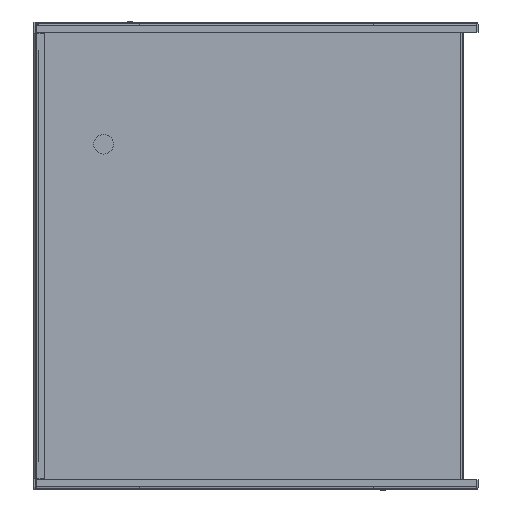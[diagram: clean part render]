
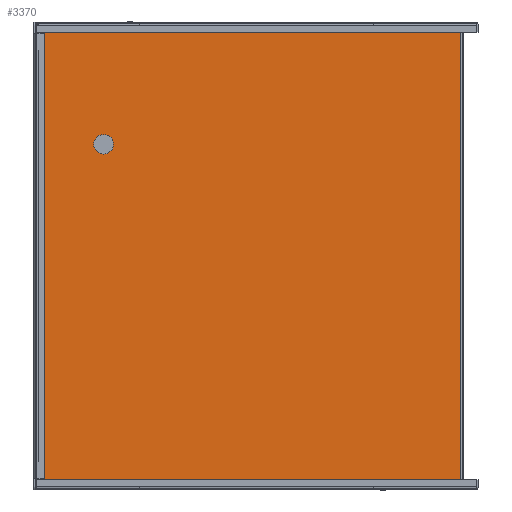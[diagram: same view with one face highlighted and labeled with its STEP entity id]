
A CAD part, left-side view. The second image highlights one B-rep face of the part: STEP entity #3370.
In plain terms, the highlighted planar face has unit normal (-1, 0, 0).
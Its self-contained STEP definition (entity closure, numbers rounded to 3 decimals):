
#929 = CARTESIAN_POINT ( 'NONE',  ( -250., 1.3, 175.2 ) ) ;
#933 = DIRECTION ( 'NONE',  ( 0., 1., 0. ) ) ;
#964 = CARTESIAN_POINT ( 'NONE',  ( -250., 323.7, 157. ) ) ;
#977 = DIRECTION ( 'NONE',  ( 0., 0., -1. ) ) ;
#1296 = VECTOR ( 'NONE', #933, 1000. ) ;
#1298 = LINE ( 'NONE', #929, #1296 ) ;
#1440 = VECTOR ( 'NONE', #7320, 1000. ) ;
#1444 = LINE ( 'NONE', #7218, #1440 ) ;
#1603 = ORIENTED_EDGE ( 'NONE', *, *, #8652, .F. ) ;
#1604 = ORIENTED_EDGE ( 'NONE', *, *, #8679, .T. ) ;
#1607 = ORIENTED_EDGE ( 'NONE', *, *, #8677, .F. ) ;
#1611 = ORIENTED_EDGE ( 'NONE', *, *, #8686, .T. ) ;
#1612 = ORIENTED_EDGE ( 'NONE', *, *, #9012, .T. ) ;
#1739 = ORIENTED_EDGE ( 'NONE', *, *, #8466, .T. ) ;
#1740 = ORIENTED_EDGE ( 'NONE', *, *, #8293, .F. ) ;
#1766 = ORIENTED_EDGE ( 'NONE', *, *, #8429, .T. ) ;
#1799 = ORIENTED_EDGE ( 'NONE', *, *, #8975, .F. ) ;
#1800 = ORIENTED_EDGE ( 'NONE', *, *, #9011, .T. ) ;
#3370 = ADVANCED_FACE ( 'NONE', ( #5920, #5916 ), #6550, .T. ) ;
#4261 = EDGE_LOOP ( 'NONE', ( #1603, #1607 ) ) ;
#4269 = EDGE_LOOP ( 'NONE', ( #1799, #1612, #1800, #1766, #1740, #1611, #1739, #1604 ) ) ;
#4678 = CARTESIAN_POINT ( 'NONE',  ( -250., 325., -175.2 ) ) ;
#4792 = CARTESIAN_POINT ( 'NONE',  ( -250., 323.7, -157. ) ) ;
#5341 = VERTEX_POINT ( 'NONE', #6185 ) ;
#5389 = CARTESIAN_POINT ( 'NONE',  ( -250., 1.3, 175.2 ) ) ;
#5412 = CARTESIAN_POINT ( 'NONE',  ( -250., 325., -157. ) ) ;
#5573 = CARTESIAN_POINT ( 'NONE',  ( -250., 281.2, 85.2 ) ) ;
#5670 = VECTOR ( 'NONE', #13682, 1000. ) ;
#5673 = LINE ( 'NONE', #13772, #5670 ) ;
#5681 = VECTOR ( 'NONE', #13648, 1000. ) ;
#5684 = LINE ( 'NONE', #13649, #5681 ) ;
#5686 = CIRCLE ( 'NONE', #14674, 7.5 ) ;
#5705 = CIRCLE ( 'NONE', #14706, 7.5 ) ;
#5916 = FACE_OUTER_BOUND ( 'NONE', #4269, .T. ) ;
#5920 = FACE_BOUND ( 'NONE', #4261, .T. ) ;
#6050 = DIRECTION ( 'NONE',  ( -1., 0., 0. ) ) ;
#6185 = CARTESIAN_POINT ( 'NONE',  ( -250., 325., 175.2 ) ) ;
#6542 = CARTESIAN_POINT ( 'NONE',  ( -250., 0., 0. ) ) ;
#6550 = PLANE ( 'NONE',  #14061 ) ;
#6580 = DIRECTION ( 'NONE',  ( 0., -1., 0. ) ) ;
#7218 = CARTESIAN_POINT ( 'NONE',  ( -250., 325., 177.5 ) ) ;
#7320 = DIRECTION ( 'NONE',  ( 0., 0., 1. ) ) ;
#8177 = VECTOR ( 'NONE', #977, 1000. ) ;
#8182 = LINE ( 'NONE', #964, #8177 ) ;
#8293 = EDGE_CURVE ( 'NONE', #12748, #5341, #1444, .T. ) ;
#8429 = EDGE_CURVE ( 'NONE', #13378, #5341, #1298, .T. ) ;
#8466 = EDGE_CURVE ( 'NONE', #12928, #13491, #8182, .T. ) ;
#8652 = EDGE_CURVE ( 'NONE', #12763, #13159, #5705, .T. ) ;
#8677 = EDGE_CURVE ( 'NONE', #13159, #12763, #5686, .T. ) ;
#8679 = EDGE_CURVE ( 'NONE', #13491, #13421, #5684, .T. ) ;
#8686 = EDGE_CURVE ( 'NONE', #12748, #12928, #5673, .T. ) ;
#8975 = EDGE_CURVE ( 'NONE', #13202, #13421, #11252, .T. ) ;
#9011 = EDGE_CURVE ( 'NONE', #12905, #13378, #11206, .T. ) ;
#9012 = EDGE_CURVE ( 'NONE', #13202, #12905, #11204, .T. ) ;
#10558 = CARTESIAN_POINT ( 'NONE',  ( -250., 323.7, 157. ) ) ;
#10594 = CARTESIAN_POINT ( 'NONE',  ( -250., 1.3, -175.2 ) ) ;
#10809 = CARTESIAN_POINT ( 'NONE',  ( -250., 266.2, 85.2 ) ) ;
#10858 = CARTESIAN_POINT ( 'NONE',  ( -250., 325., 157. ) ) ;
#11201 = VECTOR ( 'NONE', #12379, 1000. ) ;
#11203 = VECTOR ( 'NONE', #12369, 1000. ) ;
#11204 = LINE ( 'NONE', #12373, #11201 ) ;
#11206 = LINE ( 'NONE', #12368, #11203 ) ;
#11249 = VECTOR ( 'NONE', #12534, 1000. ) ;
#11252 = LINE ( 'NONE', #12532, #11249 ) ;
#12368 = CARTESIAN_POINT ( 'NONE',  ( -250., 1.3, 0. ) ) ;
#12369 = DIRECTION ( 'NONE',  ( 0., 0., 1. ) ) ;
#12373 = CARTESIAN_POINT ( 'NONE',  ( -250., 325., -175.2 ) ) ;
#12379 = DIRECTION ( 'NONE',  ( 0., -1., 0. ) ) ;
#12532 = CARTESIAN_POINT ( 'NONE',  ( -250., 325., 177.5 ) ) ;
#12534 = DIRECTION ( 'NONE',  ( 0., 0., 1. ) ) ;
#12748 = VERTEX_POINT ( 'NONE', #10858 ) ;
#12763 = VERTEX_POINT ( 'NONE', #10809 ) ;
#12905 = VERTEX_POINT ( 'NONE', #10594 ) ;
#12928 = VERTEX_POINT ( 'NONE', #10558 ) ;
#13159 = VERTEX_POINT ( 'NONE', #5573 ) ;
#13202 = VERTEX_POINT ( 'NONE', #4678 ) ;
#13378 = VERTEX_POINT ( 'NONE', #5389 ) ;
#13421 = VERTEX_POINT ( 'NONE', #5412 ) ;
#13491 = VERTEX_POINT ( 'NONE', #4792 ) ;
#13639 = CARTESIAN_POINT ( 'NONE',  ( -250., 273.7, 85.2 ) ) ;
#13642 = DIRECTION ( 'NONE',  ( -1., 0., 0. ) ) ;
#13645 = DIRECTION ( 'NONE',  ( 0., -1., 0. ) ) ;
#13648 = DIRECTION ( 'NONE',  ( 0., 1., 0. ) ) ;
#13649 = CARTESIAN_POINT ( 'NONE',  ( -250., 0., -157. ) ) ;
#13682 = DIRECTION ( 'NONE',  ( 0., -1., 0. ) ) ;
#13751 = CARTESIAN_POINT ( 'NONE',  ( -250., 273.7, 85.2 ) ) ;
#13753 = DIRECTION ( 'NONE',  ( 0., -1., 0. ) ) ;
#13755 = DIRECTION ( 'NONE',  ( -1., 0., 0. ) ) ;
#13772 = CARTESIAN_POINT ( 'NONE',  ( -250., 0., 157. ) ) ;
#14061 = AXIS2_PLACEMENT_3D ( 'NONE', #6542, #6050, #6580 ) ;
#14674 = AXIS2_PLACEMENT_3D ( 'NONE', #13639, #13642, #13645 ) ;
#14706 = AXIS2_PLACEMENT_3D ( 'NONE', #13751, #13755, #13753 ) ;
